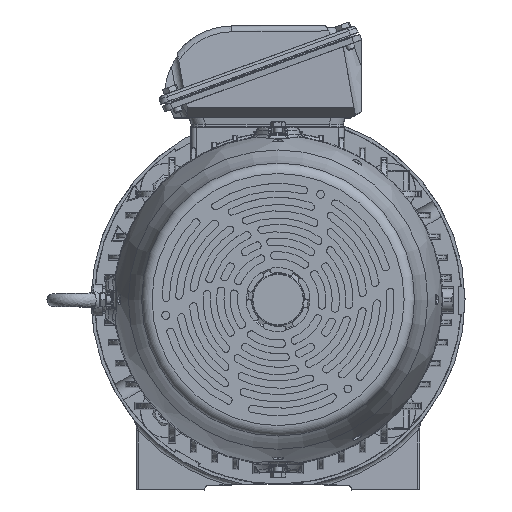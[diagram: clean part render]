
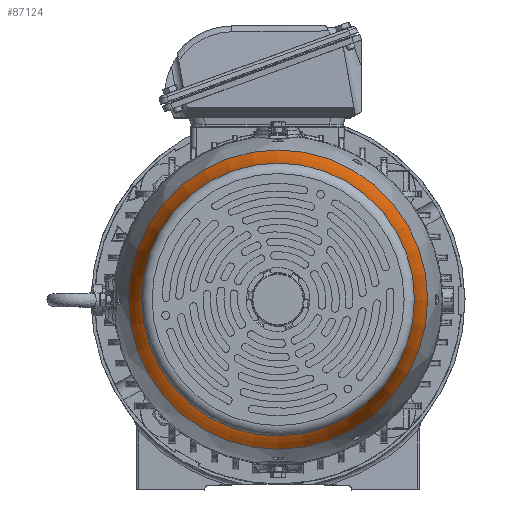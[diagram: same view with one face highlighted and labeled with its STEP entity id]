
A CAD part, top view. The second image highlights one B-rep face of the part: STEP entity #87124.
In plain terms, the highlighted toroidal (fillet/blend) face has major radius 308.616 mm and minor radius 180 mm.
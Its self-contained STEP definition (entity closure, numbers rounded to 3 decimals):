
#2024=TOROIDAL_SURFACE('',#95051,308.617,180.);
#19098=FACE_OUTER_BOUND('',#24292,.T.);
#24292=EDGE_LOOP('',(#75030,#75031,#75032,#75033,#75034,#75035));
#31425=CIRCLE('',#95048,129.927);
#31426=CIRCLE('',#95049,129.927);
#31428=CIRCLE('',#95052,142.487);
#31429=CIRCLE('',#95053,142.487);
#31430=CIRCLE('',#95054,180.);
#39955=VERTEX_POINT('',#209440);
#39956=VERTEX_POINT('',#209441);
#39957=VERTEX_POINT('',#209446);
#39958=VERTEX_POINT('',#209447);
#51919=EDGE_CURVE('',#39955,#39956,#31425,.T.);
#51920=EDGE_CURVE('',#39956,#39955,#31426,.T.);
#51922=EDGE_CURVE('',#39957,#39958,#31428,.T.);
#51923=EDGE_CURVE('',#39958,#39957,#31429,.T.);
#51924=EDGE_CURVE('',#39958,#39956,#31430,.T.);
#75030=ORIENTED_EDGE('',*,*,#51922,.F.);
#75031=ORIENTED_EDGE('',*,*,#51923,.F.);
#75032=ORIENTED_EDGE('',*,*,#51924,.T.);
#75033=ORIENTED_EDGE('',*,*,#51920,.T.);
#75034=ORIENTED_EDGE('',*,*,#51919,.T.);
#75035=ORIENTED_EDGE('',*,*,#51924,.F.);
#87124=ADVANCED_FACE('',(#19098),#2024,.F.);
#95048=AXIS2_PLACEMENT_3D('',#209442,#114379,#114380);
#95049=AXIS2_PLACEMENT_3D('',#209443,#114381,#114382);
#95051=AXIS2_PLACEMENT_3D('',#209445,#114385,#114386);
#95052=AXIS2_PLACEMENT_3D('',#209448,#114387,#114388);
#95053=AXIS2_PLACEMENT_3D('',#209449,#114389,#114390);
#95054=AXIS2_PLACEMENT_3D('',#209450,#114391,#114392);
#114379=DIRECTION('center_axis',(0.,0.,
-1.));
#114380=DIRECTION('ref_axis',(-1.,0.,0.));
#114381=DIRECTION('center_axis',(0.,0.,
-1.));
#114382=DIRECTION('ref_axis',(-1.,0.,0.));
#114385=DIRECTION('center_axis',(0.,0.,
-1.));
#114386=DIRECTION('ref_axis',(-1.,0.,0.));
#114387=DIRECTION('center_axis',(0.,0.,
-1.));
#114388=DIRECTION('ref_axis',(-1.,0.,0.));
#114389=DIRECTION('center_axis',(0.,0.,
-1.));
#114390=DIRECTION('ref_axis',(-1.,0.,0.));
#114391=DIRECTION('center_axis',(0.,1.,0.));
#114392=DIRECTION('ref_axis',(1.,0.,0.));
#209440=CARTESIAN_POINT('',(-129.927,0.,661.405));
#209441=CARTESIAN_POINT('',(129.927,0.,661.405));
#209442=CARTESIAN_POINT('Origin',(0.,0.,
661.405));
#209443=CARTESIAN_POINT('Origin',(0.,0.,
661.405));
#209445=CARTESIAN_POINT('Origin',(0.,0.,
683.087));
#209446=CARTESIAN_POINT('',(-142.487,0.,613.799));
#209447=CARTESIAN_POINT('',(142.487,0.,613.799));
#209448=CARTESIAN_POINT('Origin',(0.,0.,
613.799));
#209449=CARTESIAN_POINT('Origin',(0.,0.,
613.799));
#209450=CARTESIAN_POINT('Origin',(308.617,0.,
683.087));
